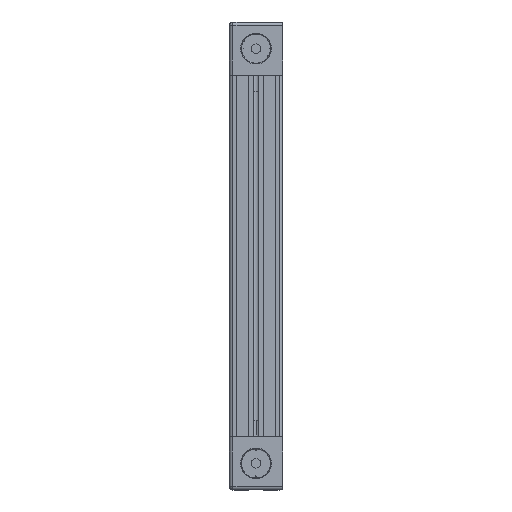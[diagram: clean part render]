
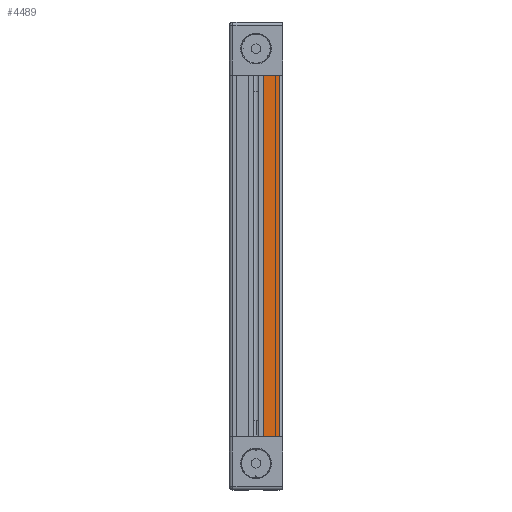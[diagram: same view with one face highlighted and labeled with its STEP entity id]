
A CAD part, left-side view. The second image highlights one B-rep face of the part: STEP entity #4489.
In plain terms, the highlighted planar face has unit normal (-1, 0, 0) as drawn and (0, 1, 0) by its records, which use the part's own axes.
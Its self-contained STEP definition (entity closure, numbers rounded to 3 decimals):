
#195 = VERTEX_POINT ( 'NONE', #2717 ) ;
#2717 = CARTESIAN_POINT ( 'NONE',  ( 0., 15., 13. ) ) ;
#3239 = ORIENTED_EDGE ( 'NONE', *, *, #39527, .F. ) ;
#4489 = ADVANCED_FACE ( 'NONE', ( #21292 ), #6994, .T. ) ;
#5084 = CARTESIAN_POINT ( 'NONE',  ( -204., 15., 13. ) ) ;
#5789 = VECTOR ( 'NONE', #27333, 1000. ) ;
#6690 = VERTEX_POINT ( 'NONE', #31957 ) ;
#6994 = PLANE ( 'NONE',  #16008 ) ;
#7247 = DIRECTION ( 'NONE',  ( 1., 0., 0. ) ) ;
#10775 = LINE ( 'NONE', #27823, #13085 ) ;
#11084 = ORIENTED_EDGE ( 'NONE', *, *, #23610, .T. ) ;
#11743 = VECTOR ( 'NONE', #7247, 1000. ) ;
#12003 = DIRECTION ( 'NONE',  ( 0., 0., 1. ) ) ;
#13050 = LINE ( 'NONE', #33554, #5789 ) ;
#13085 = VECTOR ( 'NONE', #38838, 1000. ) ;
#13913 = DIRECTION ( 'NONE',  ( 0., 0., 1. ) ) ;
#14621 = LINE ( 'NONE', #39435, #11743 ) ;
#16008 = AXIS2_PLACEMENT_3D ( 'NONE', #31392, #45428, #13913 ) ;
#18933 = VERTEX_POINT ( 'NONE', #27873 ) ;
#21292 = FACE_OUTER_BOUND ( 'NONE', #24710, .T. ) ;
#23610 = EDGE_CURVE ( 'NONE', #18933, #195, #14621, .T. ) ;
#24710 = EDGE_LOOP ( 'NONE', ( #3239, #43234, #41174, #11084 ) ) ;
#27333 = DIRECTION ( 'NONE',  ( 0., 0., 1. ) ) ;
#27823 = CARTESIAN_POINT ( 'NONE',  ( -204., 15., 4. ) ) ;
#27873 = CARTESIAN_POINT ( 'NONE',  ( -204., 15., 13. ) ) ;
#29490 = LINE ( 'NONE', #5084, #37451 ) ;
#31318 = EDGE_CURVE ( 'NONE', #36657, #18933, #29490, .T. ) ;
#31392 = CARTESIAN_POINT ( 'NONE',  ( -204., 15., 13. ) ) ;
#31957 = CARTESIAN_POINT ( 'NONE',  ( 0., 15., 4. ) ) ;
#33554 = CARTESIAN_POINT ( 'NONE',  ( 0., 15., 13. ) ) ;
#34274 = CARTESIAN_POINT ( 'NONE',  ( -204., 15., 4. ) ) ;
#36657 = VERTEX_POINT ( 'NONE', #34274 ) ;
#37451 = VECTOR ( 'NONE', #12003, 1000. ) ;
#38025 = EDGE_CURVE ( 'NONE', #36657, #6690, #10775, .T. ) ;
#38838 = DIRECTION ( 'NONE',  ( 1., 0., 0. ) ) ;
#39435 = CARTESIAN_POINT ( 'NONE',  ( -204., 15., 13. ) ) ;
#39527 = EDGE_CURVE ( 'NONE', #6690, #195, #13050, .T. ) ;
#41174 = ORIENTED_EDGE ( 'NONE', *, *, #31318, .T. ) ;
#43234 = ORIENTED_EDGE ( 'NONE', *, *, #38025, .F. ) ;
#45428 = DIRECTION ( 'NONE',  ( 0., 1., 0. ) ) ;
